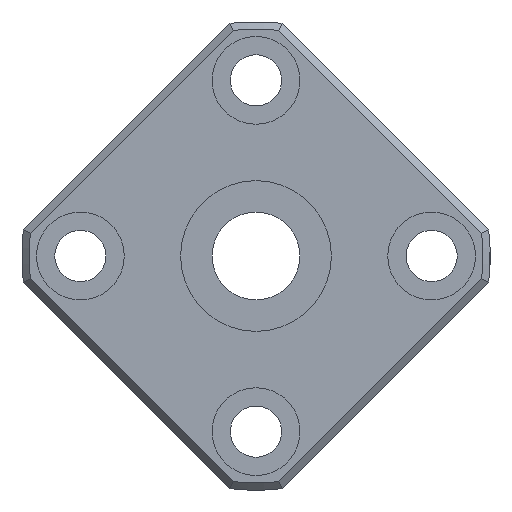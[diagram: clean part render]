
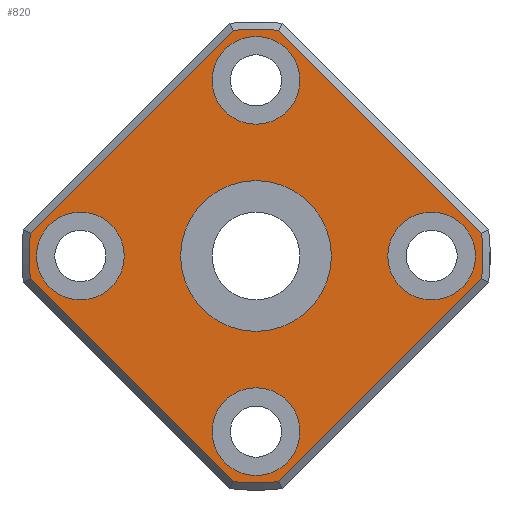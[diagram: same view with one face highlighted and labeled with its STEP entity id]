
A CAD part, left-side view. The second image highlights one B-rep face of the part: STEP entity #820.
In plain terms, the highlighted planar face has unit normal (-1, 0, 0).
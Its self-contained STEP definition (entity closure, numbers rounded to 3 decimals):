
#499=CARTESIAN_POINT('',(0.0,-15.422,-1.548));
#500=VERTEX_POINT('',#499);
#508=CARTESIAN_POINT('',(0.0,-1.548,-15.422));
#509=VERTEX_POINT('',#508);
#510=CARTESIAN_POINT('',(0.0,-15.422,-1.548));
#511=DIRECTION('',(0.0,0.707,-0.707));
#512=VECTOR('',#511,19.621);
#513=LINE('',#510,#512);
#514=EDGE_CURVE('',#500,#509,#513,.T.);
#541=CARTESIAN_POINT('',(0.0,1.548,-15.422));
#542=VERTEX_POINT('',#541);
#543=CARTESIAN_POINT('',(0.0,0.0,0.0));
#544=DIRECTION('',(1.0,0.0,0.0));
#545=DIRECTION('',(0.0,0.0,-1.0));
#546=AXIS2_PLACEMENT_3D('',#543,#544,#545);
#547=CIRCLE('',#546,15.5);
#548=EDGE_CURVE('',#509,#542,#547,.T.);
#572=CARTESIAN_POINT('',(0.0,15.422,-1.548));
#573=VERTEX_POINT('',#572);
#574=CARTESIAN_POINT('',(0.0,1.548,-15.422));
#575=DIRECTION('',(0.0,0.707,0.707));
#576=VECTOR('',#575,19.621);
#577=LINE('',#574,#576);
#578=EDGE_CURVE('',#542,#573,#577,.T.);
#597=CARTESIAN_POINT('',(0.0,15.422,1.548));
#598=VERTEX_POINT('',#597);
#599=CARTESIAN_POINT('',(0.0,0.0,0.0));
#600=DIRECTION('',(1.0,0.0,0.0));
#601=DIRECTION('',(0.0,0.0,1.0));
#602=AXIS2_PLACEMENT_3D('',#599,#600,#601);
#603=CIRCLE('',#602,15.5);
#604=EDGE_CURVE('',#573,#598,#603,.T.);
#623=CARTESIAN_POINT('',(0.0,1.548,15.422));
#624=VERTEX_POINT('',#623);
#625=CARTESIAN_POINT('',(0.0,15.422,1.548));
#626=DIRECTION('',(0.0,-0.707,0.707));
#627=VECTOR('',#626,19.621);
#628=LINE('',#625,#627);
#629=EDGE_CURVE('',#598,#624,#628,.T.);
#648=CARTESIAN_POINT('',(0.0,-1.548,15.422));
#649=VERTEX_POINT('',#648);
#650=CARTESIAN_POINT('',(0.0,0.0,0.0));
#651=DIRECTION('',(1.0,0.0,0.0));
#652=DIRECTION('',(0.0,0.0,1.0));
#653=AXIS2_PLACEMENT_3D('',#650,#651,#652);
#654=CIRCLE('',#653,15.5);
#655=EDGE_CURVE('',#624,#649,#654,.T.);
#674=CARTESIAN_POINT('',(0.0,-15.422,1.548));
#675=VERTEX_POINT('',#674);
#676=CARTESIAN_POINT('',(0.0,-1.548,15.422));
#677=DIRECTION('',(0.0,-0.707,-0.707));
#678=VECTOR('',#677,19.621);
#679=LINE('',#676,#678);
#680=EDGE_CURVE('',#649,#675,#679,.T.);
#705=CARTESIAN_POINT('',(0.0,0.0,0.0));
#706=DIRECTION('',(1.0,0.0,0.0));
#707=DIRECTION('',(0.0,0.0,1.0));
#708=AXIS2_PLACEMENT_3D('',#705,#706,#707);
#709=CIRCLE('',#708,15.5);
#710=EDGE_CURVE('',#675,#500,#709,.T.);
#750=CARTESIAN_POINT('',(0.0,0.0,6.325));
#751=DIRECTION('',(-1.0,0.0,0.0));
#752=DIRECTION('',(0.0,0.0,1.0));
#753=AXIS2_PLACEMENT_3D('',#750,#751,#752);
#754=PLANE('',#753);
#755=ORIENTED_EDGE('',*,*,#514,.F.);
#756=ORIENTED_EDGE('',*,*,#710,.F.);
#757=ORIENTED_EDGE('',*,*,#680,.F.);
#758=ORIENTED_EDGE('',*,*,#655,.F.);
#759=ORIENTED_EDGE('',*,*,#629,.F.);
#760=ORIENTED_EDGE('',*,*,#604,.F.);
#761=ORIENTED_EDGE('',*,*,#578,.F.);
#762=ORIENTED_EDGE('',*,*,#548,.F.);
#763=EDGE_LOOP('',(#755,#756,#757,#758,#759,#760,#761,#762));
#764=FACE_OUTER_BOUND('',#763,.T.);
#765=CARTESIAN_POINT('',(0.0,0.0,5.15));
#766=VERTEX_POINT('',#765);
#767=CARTESIAN_POINT('',(0.0,0.0,0.0));
#768=DIRECTION('',(-1.0,0.0,0.0));
#769=DIRECTION('',(0.0,0.0,1.0));
#770=AXIS2_PLACEMENT_3D('',#767,#768,#769);
#771=CIRCLE('',#770,5.15);
#772=EDGE_CURVE('',#766,#766,#771,.T.);
#773=ORIENTED_EDGE('',*,*,#772,.F.);
#774=EDGE_LOOP('',(#773));
#775=FACE_BOUND('',#774,.T.);
#776=CARTESIAN_POINT('',(0.0,-9.,0.0));
#777=VERTEX_POINT('',#776);
#778=CARTESIAN_POINT('',(0.0,-12.,0.0));
#779=DIRECTION('',(1.0,0.0,0.0));
#780=DIRECTION('',(0.0,1.0,0.0));
#781=AXIS2_PLACEMENT_3D('',#778,#779,#780);
#782=CIRCLE('',#781,3.);
#783=EDGE_CURVE('',#777,#777,#782,.T.);
#784=ORIENTED_EDGE('',*,*,#783,.T.);
#785=EDGE_LOOP('',(#784));
#786=FACE_BOUND('',#785,.T.);
#787=CARTESIAN_POINT('',(0.0,15.,0.0));
#788=VERTEX_POINT('',#787);
#789=CARTESIAN_POINT('',(0.0,12.,0.0));
#790=DIRECTION('',(1.0,0.0,0.0));
#791=DIRECTION('',(0.0,1.0,0.0));
#792=AXIS2_PLACEMENT_3D('',#789,#790,#791);
#793=CIRCLE('',#792,3.);
#794=EDGE_CURVE('',#788,#788,#793,.T.);
#795=ORIENTED_EDGE('',*,*,#794,.T.);
#796=EDGE_LOOP('',(#795));
#797=FACE_BOUND('',#796,.T.);
#798=CARTESIAN_POINT('',(0.0,3.,12.));
#799=VERTEX_POINT('',#798);
#800=CARTESIAN_POINT('',(0.0,0.0,12.));
#801=DIRECTION('',(1.0,0.0,0.0));
#802=DIRECTION('',(0.0,1.0,0.0));
#803=AXIS2_PLACEMENT_3D('',#800,#801,#802);
#804=CIRCLE('',#803,3.);
#805=EDGE_CURVE('',#799,#799,#804,.T.);
#806=ORIENTED_EDGE('',*,*,#805,.T.);
#807=EDGE_LOOP('',(#806));
#808=FACE_BOUND('',#807,.T.);
#809=CARTESIAN_POINT('',(0.0,3.,-12.));
#810=VERTEX_POINT('',#809);
#811=CARTESIAN_POINT('',(0.0,0.0,-12.));
#812=DIRECTION('',(1.0,0.0,0.0));
#813=DIRECTION('',(0.0,1.0,0.0));
#814=AXIS2_PLACEMENT_3D('',#811,#812,#813);
#815=CIRCLE('',#814,3.);
#816=EDGE_CURVE('',#810,#810,#815,.T.);
#817=ORIENTED_EDGE('',*,*,#816,.T.);
#818=EDGE_LOOP('',(#817));
#819=FACE_BOUND('',#818,.T.);
#820=ADVANCED_FACE('',(#764,#775,#786,#797,#808,#819),#754,.T.);
